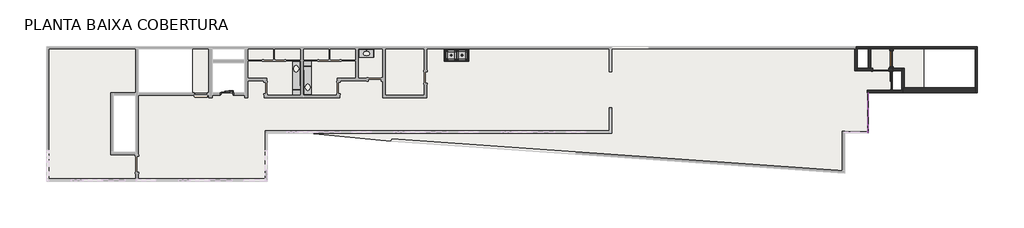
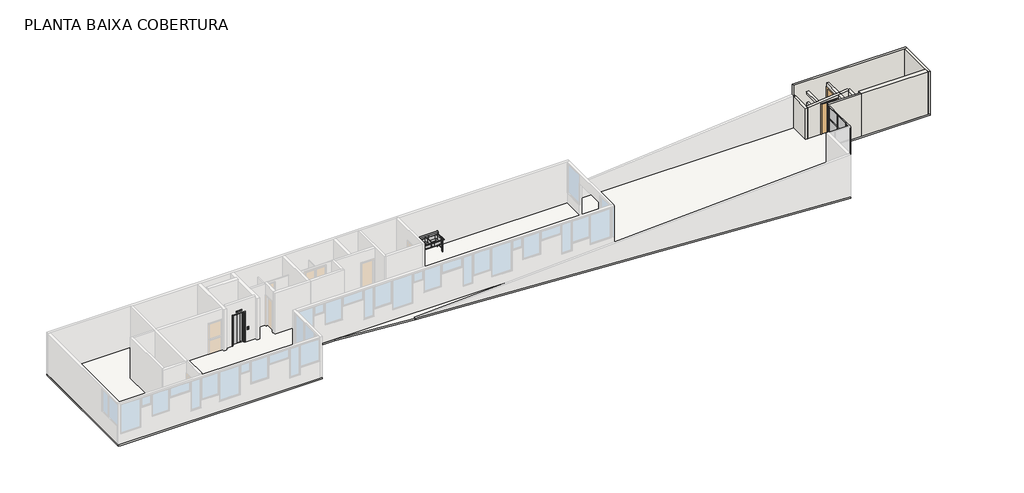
# One storey, part 3 of 3: 23 members, 12 furniture elements, 11 walls, 9 plates, 3 doors, 3 slabs, 1 flow terminal, 1 proxy.
"""IFC4 building model written with IfcOpenShell, lengths in millimetres."""

from ifc_helpers import new_model, si_unit, frame, origin, place, context, project, spatial, polyline, outline, extrude, faceted_brep, transform, mapped, element, save
from components import lift_side_door_aus_4_person_320kg_load_5218565f, door_1000_x_2100_mm_661a7a0d, door_1000_x_2100_mm_77822ca1, door_1200_x_2100mm_dfe7479b, flow_terminal_7016cc60, flow_terminal_fb18c262, furniture_ba68da85, furniture_0e66150f, furniture_6f2fc743, bancada_3f8d7115, bancada_f9a04eb4, rectangular_mullion_4x4_cm_offset_2cm_f367b127, rectangular_mullion_4x4_cm_offset_2cm_0519d578, rectangular_mullion_4x4_cm_offset_2cm_ddc5f716, rectangular_mullion_4x4_cm_offset_2cm_dcd03643, rectangular_mullion_4x4_cm_offset_2cm_bcd7c595, rectangular_mullion_4x4_cm_offset_2cm_f339643f, rectangular_mullion_4x4_cm_offset_2cm_86c1dae4, rectangular_mullion_4x4_cm_offset_2cm_9c1948b9, rectangular_mullion_4x4_cm_offset_2cm_c138487f, rectangular_mullion_4x4_cm_offset_2cm_ab246246, system_panel_vidro_2cm_7b007d6b, system_panel_vidro_2cm_9368d487, system_panel_vidro_2cm_80f5f5df, system_panel_vidro_2cm_2f9a8f67, system_panel_vidro_2cm_45a89a14, system_panel_vidro_2cm_91a6d141

model = new_model("IFC4")

# Units and contexts
model_context = context("Model", 3, world=origin())
ifc_project = project(units=[si_unit("LENGTHUNIT", "METRE", prefix="MILLI")], contexts=[model_context])

# Site, building, storey
site = spatial("IfcSite", under=ifc_project)
building = spatial("IfcBuilding", under=site)
storey = spatial("IfcBuildingStorey", under=building, Name="PLANTA BAIXA COBERTURA", Elevation=7200.0)

# Proxy
placement = place(None, origin())
lift_side_door_aus_4_person_320kg_load_shape = lift_side_door_aus_4_person_320kg_load_5218565f(model_context)
element("IfcBuildingElementProxy", 1, Name="Lift - Side Door (AUS) : 4 Person 320kg load", ObjectType="Lift - Side Door (AUS) : 4 Person 320kg load", at=placement, inside=storey, context=model_context, shape_type="MappedRepresentation", body=[
    mapped(lift_side_door_aus_4_person_320kg_load_shape, transform((-3150.7183499, -5666.1116245, 7200.0), x_axis=(-1.0, 0.0, 0.0), y_axis=(0.0, -1.0, 0.0), z_axis=(0.0, 0.0, 1.0))),
])

# Doors
door_1000_x_2100_mm_shape = door_1000_x_2100_mm_661a7a0d(model_context)
element("IfcDoor", 2, ObjectType="M_Folha única : 1000 x 2100 mm", at=placement, inside=storey, context=model_context, shape_type="MappedRepresentation", body=[
    mapped(door_1000_x_2100_mm_shape, transform((36795.3673655, -4166.1116245, 7200.0), x_axis=(1.0, 0.0, 0.0), y_axis=(0.0, 1.0, 0.0), z_axis=(0.0, 0.0, 1.0))),
])
door_1000_x_2100_mm_2_shape = door_1000_x_2100_mm_77822ca1(model_context)
element("IfcDoor", 3, ObjectType="M_Folha única : 1000 x 2100 mm", at=placement, inside=storey, context=model_context, shape_type="MappedRepresentation", body=[
    mapped(door_1000_x_2100_mm_2_shape, transform((37470.3673655, -3491.1116245, 7200.0), x_axis=(0.0, 1.0, 0.0), y_axis=(-1.0, 0.0, 0.0), z_axis=(0.0, 0.0, 1.0))),
])
door_1200_x_2100mm_shape = door_1200_x_2100mm_dfe7479b(model_context)
element("IfcDoor", 4, ObjectType="Porta veneziana de correr dupla sem revestimento : 1200 x 2100mm", at=placement, inside=storey, context=model_context, shape_type="MappedRepresentation", body=[
    mapped(door_1200_x_2100mm_shape, transform((37470.3673655, -4846.4505378, 7200.0), x_axis=(0.0, -1.0, 0.0), y_axis=(1.0, 0.0, 0.0), z_axis=(0.0, 0.0, 1.0))),
])

# Flow terminal
flow_terminal_shape = flow_terminal_7016cc60(model_context)
flow_terminal_2_shape = flow_terminal_fb18c262(model_context)
element("IfcFlowTerminal", 5, ObjectType="Sink_Double _Compartment_Floor_Mount-Elkay-RNSF82482_LR2 : RNSF82482 (Rigidbilt® Stainless Steel Floor Mount Double Compartment Scullery Sink )", at=placement, inside=storey, context=model_context, shape_type="MappedRepresentation", body=[
    mapped(flow_terminal_shape, transform((10690.3673655, -3271.1116245, 7200.0), x_axis=(1.0, 0.0, 0.0), y_axis=(0.0, 1.0, 0.0), z_axis=(0.0, 0.0, 1.0))),
    mapped(flow_terminal_2_shape, transform((10690.3673655, -3271.1116245, 7200.0), x_axis=(1.0, 0.0, 0.0), y_axis=(0.0, 1.0, 0.0), z_axis=(0.0, 0.0, 1.0))),
])

# Furniture
furniture_shape = furniture_ba68da85(model_context)
element("IfcFurniture", 6, ObjectType="Frontispício : Frontispício", at=placement, inside=storey, context=model_context, shape_type="MappedRepresentation", body=[
    mapped(furniture_shape, transform((901.6897466, -3616.1116245, 8200.0), x_axis=(1.0000000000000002, 0.0, 0.0), y_axis=(0.0, 1.0000000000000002, 0.0), z_axis=(0.0, 0.0, 1.0))),
])
element("IfcFurniture", 7, ObjectType="Frontispício : Frontispício", at=placement, inside=storey, context=model_context, shape_type="MappedRepresentation", body=[
    mapped(furniture_shape, transform((901.6897466, -5396.1116245, 8200.0), x_axis=(1.0, 0.0, 0.0), y_axis=(0.0, 1.0, 0.0), z_axis=(0.0, 0.0, 1.0))),
])
element("IfcFurniture", 8, ObjectType="Frontispício : Frontispício", at=placement, inside=storey, context=model_context, shape_type="MappedRepresentation", body=[
    mapped(furniture_shape, transform((1439.0449845, -5741.1116245, 8200.0), x_axis=(-1.0000000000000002, 0.0, 0.0), y_axis=(0.0, -1.0000000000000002, 0.0), z_axis=(0.0, 0.0, 1.0))),
])
element("IfcFurniture", 9, ObjectType="Frontispício : Frontispício", at=placement, inside=storey, context=model_context, shape_type="MappedRepresentation", body=[
    mapped(furniture_shape, transform((1439.0449845, -3961.1116245, 8200.0), x_axis=(-1.0, 0.0, 0.0), y_axis=(0.0, -1.0, 0.0), z_axis=(0.0, 0.0, 1.0))),
])
element("IfcFurniture", 10, ObjectType="Frontispício : Frontispício", at=placement, inside=storey, context=model_context, shape_type="MappedRepresentation", body=[
    mapped(furniture_shape, transform((4645.3673655, -3084.7892435, 8200.0), x_axis=(0.0, 1.0000000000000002, 0.0), y_axis=(-1.0000000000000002, 0.0, 0.0), z_axis=(0.0, 0.0, 1.0))),
])
element("IfcFurniture", 11, ObjectType="Frontispício : Frontispício", at=placement, inside=storey, context=model_context, shape_type="MappedRepresentation", body=[
    mapped(furniture_shape, transform((5575.3673655, -3084.7892435, 8200.0), x_axis=(0.0, 1.0, 0.0), y_axis=(-1.0, 0.0, 0.0), z_axis=(0.0, 0.0, 1.0))),
])
furniture_2_shape = furniture_0e66150f(model_context)
element("IfcFurniture", 12, ObjectType="Frontispício : Frontispício", at=placement, inside=storey, context=model_context, shape_type="MappedRepresentation", body=[
    mapped(furniture_2_shape, transform((5421.6897466, -2891.1116245, 8200.0), x_axis=(1.0, 0.0, 0.0), y_axis=(0.0, 1.0, 0.0), z_axis=(0.0, 0.0, 1.0))),
])
furniture_3_shape = furniture_6f2fc743(model_context)
element("IfcFurniture", 13, ObjectType="Frontispício : Frontispício", at=placement, inside=storey, context=model_context, shape_type="MappedRepresentation", body=[
    mapped(furniture_3_shape, transform((1095.3673655, -4992.4340055, 8200.0), x_axis=(0.0, -1.0, 0.0), y_axis=(1.0, 0.0, 0.0), z_axis=(0.0, 0.0, 1.0))),
])
element("IfcFurniture", 14, ObjectType="Frontispício : Frontispício", at=placement, inside=storey, context=model_context, shape_type="MappedRepresentation", body=[
    mapped(furniture_3_shape, transform((1245.3673655, -4364.7892435, 8200.0), x_axis=(0.0, 1.0, 0.0), y_axis=(-1.0, 0.0, 0.0), z_axis=(0.0, 0.0, 1.0))),
])
bancada_shape = bancada_3f8d7115(model_context)
element("IfcFurniture", 15, ObjectType="Bancada Retangular para lavatório Cuba Oval com Torneira Chanfro : Bancada", at=placement, inside=storey, context=model_context, shape_type="MappedRepresentation", body=[
    mapped(bancada_shape, transform((5220.6670391, -2891.1116245, 7200.0), x_axis=(1.0, 0.0, 0.0), y_axis=(0.0, 1.0, 0.0), z_axis=(0.0, 0.0, 1.0))),
])
bancada_2_shape = bancada_f9a04eb4(model_context)
element("IfcFurniture", 16, ObjectType="Bancada lavatorio duplo : Bancada", at=placement, inside=storey, context=model_context, shape_type="MappedRepresentation", body=[
    mapped(bancada_2_shape, transform((1095.3673655, -4191.4112981, 7200.0), x_axis=(0.0, -1.0, 0.0), y_axis=(1.0, 0.0, 0.0), z_axis=(0.0, 0.0, 1.0))),
])
element("IfcFurniture", 17, ObjectType="Bancada lavatorio duplo : Bancada", at=placement, inside=storey, context=model_context, shape_type="MappedRepresentation", body=[
    mapped(bancada_2_shape, transform((1245.3673655, -5165.8119509, 7200.0), x_axis=(0.0, 1.0, 0.0), y_axis=(-1.0, 0.0, 0.0), z_axis=(0.0, 0.0, 1.0))),
])

# Members
rectangular_mullion_4x4_cm_offset_2cm_shape = rectangular_mullion_4x4_cm_offset_2cm_f367b127(model_context)
element("IfcMember", 18, ObjectType="Rectangular Mullion : 4x4 cm - offset 2cm", at=placement, inside=storey, context=model_context, shape_type="MappedRepresentation", body=[
    mapped(rectangular_mullion_4x4_cm_offset_2cm_shape, transform((36035.3673655, -6551.1116248, 7240.0), x_axis=(0.0, -1.0, 0.0), y_axis=(-1.0, 0.0, 0.0), z_axis=(0.0, 0.0, -1.0))),
])
element("IfcMember", 19, ObjectType="Rectangular Mullion : 4x4 cm - offset 2cm", at=placement, inside=storey, context=model_context, shape_type="MappedRepresentation", body=[
    mapped(rectangular_mullion_4x4_cm_offset_2cm_shape, transform((36035.3673655, -7551.1116248, 7240.0), x_axis=(0.0, -1.0, 0.0), y_axis=(-1.0, 0.0, 0.0), z_axis=(0.0, 0.0, -1.0))),
])
element("IfcMember", 20, ObjectType="Rectangular Mullion : 4x4 cm - offset 2cm", at=placement, inside=storey, context=model_context, shape_type="MappedRepresentation", body=[
    mapped(rectangular_mullion_4x4_cm_offset_2cm_shape, transform((36035.3673655, -6551.1116248, 8240.0), x_axis=(0.0, -1.0, 0.0), y_axis=(-1.0, 0.0, 0.0), z_axis=(0.0, 0.0, -1.0))),
])
element("IfcMember", 21, ObjectType="Rectangular Mullion : 4x4 cm - offset 2cm", at=placement, inside=storey, context=model_context, shape_type="MappedRepresentation", body=[
    mapped(rectangular_mullion_4x4_cm_offset_2cm_shape, transform((36035.3673655, -7551.1116248, 8240.0), x_axis=(0.0, -1.0, 0.0), y_axis=(-1.0, 0.0, 0.0), z_axis=(0.0, 0.0, -1.0))),
])
rectangular_mullion_4x4_cm_offset_2cm_2_shape = rectangular_mullion_4x4_cm_offset_2cm_0519d578(model_context)
element("IfcMember", 22, ObjectType="Rectangular Mullion : 4x4 cm - offset 2cm", at=placement, inside=storey, context=model_context, shape_type="MappedRepresentation", body=[
    mapped(rectangular_mullion_4x4_cm_offset_2cm_2_shape, transform((36035.3673655, -8041.1116245, 7240.0), x_axis=(0.0, -1.0, 0.0), y_axis=(-1.0, 0.0, 0.0), z_axis=(0.0, 0.0, -1.0))),
])
element("IfcMember", 23, ObjectType="Rectangular Mullion : 4x4 cm - offset 2cm", at=placement, inside=storey, context=model_context, shape_type="MappedRepresentation", body=[
    mapped(rectangular_mullion_4x4_cm_offset_2cm_2_shape, transform((36035.3673655, -5591.1116245, 8200.0), x_axis=(0.0, 1.0, 0.0), y_axis=(-1.0, 0.0, 0.0), z_axis=(0.0, 0.0, 1.0))),
])
rectangular_mullion_4x4_cm_offset_2cm_3_shape = rectangular_mullion_4x4_cm_offset_2cm_ddc5f716(model_context)
element("IfcMember", 24, ObjectType="Rectangular Mullion : 4x4 cm - offset 2cm", at=placement, inside=storey, context=model_context, shape_type="MappedRepresentation", body=[
    mapped(rectangular_mullion_4x4_cm_offset_2cm_3_shape, transform((36035.3673655, -6551.1116248, 7200.0), x_axis=(0.0, 0.0, -1.0), y_axis=(-1.0, 0.0, 0.0), z_axis=(0.0, 1.0, 0.0))),
])
rectangular_mullion_4x4_cm_offset_2cm_4_shape = rectangular_mullion_4x4_cm_offset_2cm_dcd03643(model_context)
element("IfcMember", 25, ObjectType="Rectangular Mullion : 4x4 cm - offset 2cm", at=placement, inside=storey, context=model_context, shape_type="MappedRepresentation", body=[
    mapped(rectangular_mullion_4x4_cm_offset_2cm_4_shape, transform((36035.3673655, -7551.1116248, 8200.0), x_axis=(0.0, 0.0, 1.0), y_axis=(-1.0, 0.0, 0.0), z_axis=(0.0, -1.0, 0.0))),
])
element("IfcMember", 26, ObjectType="Rectangular Mullion : 4x4 cm - offset 2cm", at=placement, inside=storey, context=model_context, shape_type="MappedRepresentation", body=[
    mapped(rectangular_mullion_4x4_cm_offset_2cm_4_shape, transform((36035.3673655, -7551.1116248, 9200.0), x_axis=(0.0, 0.0, 1.0), y_axis=(-1.0, 0.0, 0.0), z_axis=(0.0, -1.0, 0.0))),
])
element("IfcMember", 27, ObjectType="Rectangular Mullion : 4x4 cm - offset 2cm", at=placement, inside=storey, context=model_context, shape_type="MappedRepresentation", body=[
    mapped(rectangular_mullion_4x4_cm_offset_2cm_3_shape, transform((36035.3673655, -7551.1116248, 10100.0), x_axis=(0.0, 0.0, 1.0), y_axis=(-1.0, 0.0, 0.0), z_axis=(0.0, -1.0, 0.0))),
])
element("IfcMember", 28, ObjectType="Rectangular Mullion : 4x4 cm - offset 2cm", at=placement, inside=storey, context=model_context, shape_type="MappedRepresentation", body=[
    mapped(rectangular_mullion_4x4_cm_offset_2cm_3_shape, transform((36035.3673655, -8041.1116245, 8200.0), x_axis=(0.0, -1.0, 0.0), y_axis=(-1.0, 0.0, 0.0), z_axis=(0.0, 0.0, -1.0))),
])
element("IfcMember", 29, ObjectType="Rectangular Mullion : 4x4 cm - offset 2cm", at=placement, inside=storey, context=model_context, shape_type="MappedRepresentation", body=[
    mapped(rectangular_mullion_4x4_cm_offset_2cm_3_shape, transform((36035.3673655, -5591.1116245, 9200.0), x_axis=(0.0, 1.0, 0.0), y_axis=(-1.0, 0.0, 0.0), z_axis=(0.0, 0.0, 1.0))),
])
rectangular_mullion_4x4_cm_offset_2cm_5_shape = rectangular_mullion_4x4_cm_offset_2cm_bcd7c595(model_context)
element("IfcMember", 30, ObjectType="Rectangular Mullion : 4x4 cm - offset 2cm", at=placement, inside=storey, context=model_context, shape_type="MappedRepresentation", body=[
    mapped(rectangular_mullion_4x4_cm_offset_2cm_5_shape, transform((36035.3673655, -5591.1116245, 7200.0), x_axis=(0.0, 0.0, -1.0), y_axis=(-1.0, 0.0, 0.0), z_axis=(0.0, 1.0, 0.0))),
])
element("IfcMember", 31, ObjectType="Rectangular Mullion : 4x4 cm - offset 2cm", at=placement, inside=storey, context=model_context, shape_type="MappedRepresentation", body=[
    mapped(rectangular_mullion_4x4_cm_offset_2cm_5_shape, transform((36035.3673655, -6551.1116248, 10100.0), x_axis=(0.0, 0.0, 1.0), y_axis=(-1.0, 0.0, 0.0), z_axis=(0.0, -1.0, 0.0))),
])
rectangular_mullion_4x4_cm_offset_2cm_6_shape = rectangular_mullion_4x4_cm_offset_2cm_f339643f(model_context)
element("IfcMember", 32, ObjectType="Rectangular Mullion : 4x4 cm - offset 2cm", at=placement, inside=storey, context=model_context, shape_type="MappedRepresentation", body=[
    mapped(rectangular_mullion_4x4_cm_offset_2cm_6_shape, transform((36035.3673655, -6551.1116248, 8200.0), x_axis=(0.0, 0.0, 1.0), y_axis=(-1.0, 0.0, 0.0), z_axis=(0.0, -1.0, 0.0))),
])
element("IfcMember", 33, ObjectType="Rectangular Mullion : 4x4 cm - offset 2cm", at=placement, inside=storey, context=model_context, shape_type="MappedRepresentation", body=[
    mapped(rectangular_mullion_4x4_cm_offset_2cm_6_shape, transform((36035.3673655, -6551.1116248, 9200.0), x_axis=(0.0, 0.0, 1.0), y_axis=(-1.0, 0.0, 0.0), z_axis=(0.0, -1.0, 0.0))),
])
rectangular_mullion_4x4_cm_offset_2cm_7_shape = rectangular_mullion_4x4_cm_offset_2cm_86c1dae4(model_context)
element("IfcMember", 34, ObjectType="Rectangular Mullion : 4x4 cm - offset 2cm", at=placement, inside=storey, context=model_context, shape_type="MappedRepresentation", body=[
    mapped(rectangular_mullion_4x4_cm_offset_2cm_7_shape, transform((36035.3673655, -8001.1116245, 8200.0), x_axis=(0.0, 0.0, 1.0), y_axis=(-1.0, 0.0, 0.0), z_axis=(0.0, -1.0, 0.0))),
])
element("IfcMember", 35, ObjectType="Rectangular Mullion : 4x4 cm - offset 2cm", at=placement, inside=storey, context=model_context, shape_type="MappedRepresentation", body=[
    mapped(rectangular_mullion_4x4_cm_offset_2cm_7_shape, transform((36035.3673655, -8001.1116245, 9200.0), x_axis=(0.0, 0.0, 1.0), y_axis=(-1.0, 0.0, 0.0), z_axis=(0.0, -1.0, 0.0))),
])
rectangular_mullion_4x4_cm_offset_2cm_8_shape = rectangular_mullion_4x4_cm_offset_2cm_9c1948b9(model_context)
element("IfcMember", 36, ObjectType="Rectangular Mullion : 4x4 cm - offset 2cm", at=placement, inside=storey, context=model_context, shape_type="MappedRepresentation", body=[
    mapped(rectangular_mullion_4x4_cm_offset_2cm_8_shape, transform((36035.3673655, -6551.1116248, 9240.0), x_axis=(0.0, -1.0, 0.0), y_axis=(-1.0, 0.0, 0.0), z_axis=(0.0, 0.0, -1.0))),
])
element("IfcMember", 37, ObjectType="Rectangular Mullion : 4x4 cm - offset 2cm", at=placement, inside=storey, context=model_context, shape_type="MappedRepresentation", body=[
    mapped(rectangular_mullion_4x4_cm_offset_2cm_8_shape, transform((36035.3673655, -7551.1116248, 9240.0), x_axis=(0.0, -1.0, 0.0), y_axis=(-1.0, 0.0, 0.0), z_axis=(0.0, 0.0, -1.0))),
])
rectangular_mullion_4x4_cm_offset_2cm_9_shape = rectangular_mullion_4x4_cm_offset_2cm_c138487f(model_context)
element("IfcMember", 38, ObjectType="Rectangular Mullion : 4x4 cm - offset 2cm", at=placement, inside=storey, context=model_context, shape_type="MappedRepresentation", body=[
    mapped(rectangular_mullion_4x4_cm_offset_2cm_9_shape, transform((36035.3673655, -5591.1116245, 10060.0), x_axis=(0.0, 1.0, 0.0), y_axis=(-1.0, 0.0, 0.0), z_axis=(0.0, 0.0, 1.0))),
])
element("IfcMember", 39, ObjectType="Rectangular Mullion : 4x4 cm - offset 2cm", at=placement, inside=storey, context=model_context, shape_type="MappedRepresentation", body=[
    mapped(rectangular_mullion_4x4_cm_offset_2cm_9_shape, transform((36035.3673655, -8041.1116245, 9200.0), x_axis=(0.0, -1.0, 0.0), y_axis=(-1.0, 0.0, 0.0), z_axis=(0.0, 0.0, -1.0))),
])
rectangular_mullion_4x4_cm_offset_2cm_10_shape = rectangular_mullion_4x4_cm_offset_2cm_ab246246(model_context)
element("IfcMember", 40, ObjectType="Rectangular Mullion : 4x4 cm - offset 2cm", at=placement, inside=storey, context=model_context, shape_type="MappedRepresentation", body=[
    mapped(rectangular_mullion_4x4_cm_offset_2cm_10_shape, transform((36035.3673655, -7551.1116248, 7200.0), x_axis=(0.0, 0.0, -1.0), y_axis=(-1.0, 0.0, 0.0), z_axis=(0.0, 1.0, 0.0))),
])

# Plates
system_panel_vidro_2cm_shape = system_panel_vidro_2cm_7b007d6b(model_context)
element("IfcPlate", 41, ObjectType="System Panel : Vidro 2cm", at=placement, inside=storey, context=model_context, shape_type="MappedRepresentation", body=[
    mapped(system_panel_vidro_2cm_shape, transform((36035.3673655, -7071.1116248, 7240.0), x_axis=(0.0, -1.0, 0.0), y_axis=(1.0, 0.0, 0.0), z_axis=(0.0, 0.0, 1.0))),
])
element("IfcPlate", 42, ObjectType="System Panel : Vidro 2cm", at=placement, inside=storey, context=model_context, shape_type="MappedRepresentation", body=[
    mapped(system_panel_vidro_2cm_shape, transform((36035.3673655, -7071.1116248, 8240.0), x_axis=(0.0, -1.0, 0.0), y_axis=(1.0, 0.0, 0.0), z_axis=(0.0, 0.0, 1.0))),
])
system_panel_vidro_2cm_2_shape = system_panel_vidro_2cm_9368d487(model_context)
element("IfcPlate", 43, ObjectType="System Panel : Vidro 2cm", at=placement, inside=storey, context=model_context, shape_type="MappedRepresentation", body=[
    mapped(system_panel_vidro_2cm_2_shape, transform((36035.3673655, -6091.1116247, 7240.0), x_axis=(0.0, -1.0, 0.0), y_axis=(1.0, 0.0, 0.0), z_axis=(0.0, 0.0, 1.0))),
])
element("IfcPlate", 44, ObjectType="System Panel : Vidro 2cm", at=placement, inside=storey, context=model_context, shape_type="MappedRepresentation", body=[
    mapped(system_panel_vidro_2cm_2_shape, transform((36035.3673655, -6091.1116247, 8240.0), x_axis=(0.0, -1.0, 0.0), y_axis=(1.0, 0.0, 0.0), z_axis=(0.0, 0.0, 1.0))),
])
system_panel_vidro_2cm_3_shape = system_panel_vidro_2cm_80f5f5df(model_context)
element("IfcPlate", 45, ObjectType="System Panel : Vidro 2cm", at=placement, inside=storey, context=model_context, shape_type="MappedRepresentation", body=[
    mapped(system_panel_vidro_2cm_3_shape, transform((36035.3673655, -7796.1116247, 7240.0), x_axis=(0.0, -1.0, 0.0), y_axis=(1.0, 0.0, 0.0), z_axis=(0.0, 0.0, 1.0))),
])
element("IfcPlate", 46, ObjectType="System Panel : Vidro 2cm", at=placement, inside=storey, context=model_context, shape_type="MappedRepresentation", body=[
    mapped(system_panel_vidro_2cm_3_shape, transform((36035.3673655, -7796.1116247, 8240.0), x_axis=(0.0, -1.0, 0.0), y_axis=(1.0, 0.0, 0.0), z_axis=(0.0, 0.0, 1.0))),
])
system_panel_vidro_2cm_4_shape = system_panel_vidro_2cm_2f9a8f67(model_context)
element("IfcPlate", 47, ObjectType="System Panel : Vidro 2cm", at=placement, inside=storey, context=model_context, shape_type="MappedRepresentation", body=[
    mapped(system_panel_vidro_2cm_4_shape, transform((36035.3673655, -7071.1116248, 9240.0), x_axis=(0.0, -1.0, 0.0), y_axis=(1.0, 0.0, 0.0), z_axis=(0.0, 0.0, 1.0))),
])
system_panel_vidro_2cm_5_shape = system_panel_vidro_2cm_45a89a14(model_context)
element("IfcPlate", 48, ObjectType="System Panel : Vidro 2cm", at=placement, inside=storey, context=model_context, shape_type="MappedRepresentation", body=[
    mapped(system_panel_vidro_2cm_5_shape, transform((36035.3673655, -6091.1116247, 9240.0), x_axis=(0.0, -1.0, 0.0), y_axis=(1.0, 0.0, 0.0), z_axis=(0.0, 0.0, 1.0))),
])
system_panel_vidro_2cm_6_shape = system_panel_vidro_2cm_91a6d141(model_context)
element("IfcPlate", 49, ObjectType="System Panel : Vidro 2cm", at=placement, inside=storey, context=model_context, shape_type="MappedRepresentation", body=[
    mapped(system_panel_vidro_2cm_6_shape, transform((36035.3673655, -7796.1116247, 9240.0), x_axis=(0.0, -1.0, 0.0), y_axis=(1.0, 0.0, 0.0), z_axis=(0.0, 0.0, 1.0))),
])

# Slabs
element("IfcSlab", 50, ObjectType="Genérico 100 mm", at=placement, inside=storey, context=model_context, shape_type="Brep", body=[
    faceted_brep([(-14554.6326345, -11041.1116245, 7100.0), (-14554.6326345, -2891.1116245, 7100.0), (-14554.6326345, -2741.1116245, 7100.0), (42755.3673655, -2741.1116245, 7100.0), (42755.3673655, -2891.1116245, 7100.0), (42755.3673655, -5591.1116245, 7100.0), (42605.3673655, -5591.1116245, 7100.0), (36035.3673655, -5591.1116245, 7100.0), (36035.3673655, -8041.1116245, 7100.0), (34595.3673655, -8041.1116245, 7100.0), (34595.3673655, -10551.7048448, 7100.0), (6664.9307547, -8579.2163836, 7100.0), (1599.457388, -8071.1116245, 7100.0), (-954.6326345, -8071.1116245, 7100.0), (-954.6326345, -11041.1116245, 7100.0), (-14404.6326345, -11041.1116245, 7100.0), (36045.3673655, -2891.1116245, 7100.0), (35345.3673655, -2891.1116245, 7100.0), (35345.3673655, -4091.1116245, 7100.0), (36045.3673655, -4091.1116245, 7100.0), (38085.3673655, -4241.1116245, 7100.0), (37545.3673655, -4241.1116245, 7100.0), (37545.3673655, -5441.1116245, 7100.0), (38085.3673655, -5441.1116245, 7100.0), (-2354.6326345, -2891.1116245, 7100.0), (-4354.6326345, -2891.1116245, 7100.0), (-4354.6326345, -3541.1116245, 7100.0), (-2354.6326345, -3541.1116245, 7100.0), (-9054.6326345, -5741.1116245, 7100.0), (-10454.6326345, -5741.1116245, 7100.0), (-10454.6326345, -9241.1116245, 7100.0), (-9054.6326345, -9241.1116245, 7100.0), (-4554.6326345, -2891.1116245, 7100.0), (-8904.6326345, -2891.1116245, 7100.0), (-8904.6326345, -5591.1116245, 7100.0), (-4554.6326345, -5591.1116245, 7100.0), (37545.3673655, -2891.1116245, 7100.0), (37545.3673655, -4091.1116245, 7100.0), (38235.3673655, -4091.1116245, 7100.0), (38235.3673655, -5291.1116245, 7100.0), (39445.3673655, -5291.1116245, 7100.0), (42605.3673655, -5291.1116245, 7100.0), (42605.3673655, -2891.1116245, 7100.0), (39445.3673655, -2891.1116245, 7100.0), (-4354.6326345, -3741.1116245, 7100.0), (-4354.6326345, -5591.1116245, 7100.0), (-2354.6326345, -5591.1116245, 7100.0), (-2354.6326345, -3741.1116245, 7100.0), (-14554.6326345, -2741.1116245, 7200.0), (-14554.6326345, -2891.1116245, 7200.0), (-14554.6326345, -10891.1116245, 7200.0), (-14554.6326345, -11041.1116245, 7200.0), (-954.6326345, -11041.1116245, 7200.0), (-954.6326345, -8071.1116245, 7200.0), (1599.457388, -8071.1116245, 7200.0), (6664.9307547, -8579.2163836, 7200.0), (34595.3673655, -10551.7048448, 7200.0), (34595.3673655, -8041.1116245, 7200.0), (36035.3673655, -8041.1116245, 7200.0), (36035.3673655, -5591.1116245, 7200.0), (42605.3673655, -5591.1116245, 7200.0), (42755.3673655, -5591.1116245, 7200.0), (42755.3673655, -2891.1116245, 7200.0), (42755.3673655, -2741.1116245, 7200.0), (35345.3673655, -2891.1116245, 7200.0), (36045.3673655, -2891.1116245, 7200.0), (36045.3673655, -4091.1116245, 7200.0), (35345.3673655, -4091.1116245, 7200.0), (37545.3673655, -4241.1116245, 7200.0), (38085.3673655, -4241.1116245, 7200.0), (38085.3673655, -5441.1116245, 7200.0), (37545.3673655, -5441.1116245, 7200.0), (-4354.6326345, -2891.1116245, 7200.0), (-2354.6326345, -2891.1116245, 7200.0), (-2354.6326345, -3541.1116245, 7200.0), (-4354.6326345, -3541.1116245, 7200.0), (-10454.6326345, -5741.1116245, 7200.0), (-9054.6326345, -5741.1116245, 7200.0), (-9054.6326345, -9241.1116245, 7200.0), (-10454.6326345, -9241.1116245, 7200.0), (-8904.6326345, -2891.1116245, 7200.0), (-4554.6326345, -2891.1116245, 7200.0), (-4554.6326345, -5591.1116245, 7200.0), (-8904.6326345, -5591.1116245, 7200.0), (37545.3673655, -4091.1116245, 7200.0), (37545.3673655, -3991.1116245, 7200.0), (37545.3673655, -2991.1116245, 7200.0), (37545.3673655, -2891.1116245, 7200.0), (39445.3673655, -2891.1116245, 7200.0), (42605.3673655, -2891.1116245, 7200.0), (42605.3673655, -5291.1116245, 7200.0), (39445.3673655, -5291.1116245, 7200.0), (38235.3673655, -5291.1116245, 7200.0), (38235.3673655, -4091.1116245, 7200.0), (-4354.6326345, -5591.1116245, 7200.0), (-4354.6326345, -3741.1116245, 7200.0), (-2354.6326345, -3741.1116245, 7200.0), (-2354.6326345, -5591.1116245, 7200.0)], [[[0, 1, 2, 3, 4, 5, 6, 7, 8, 9, 10, 11, 12, 13, 14, 15], [16, 17, 18, 19], [20, 21, 22, 23], [24, 25, 26, 27], [28, 29, 30, 31], [32, 33, 34, 35], [36, 37, 38, 39, 40, 41, 42, 43], [44, 45, 46, 47]], [[48, 49, 50, 51, 52, 53, 54, 55, 56, 57, 58, 59, 60, 61, 62, 63], [64, 65, 66, 67], [68, 69, 70, 71], [72, 73, 74, 75], [76, 77, 78, 79], [80, 81, 82, 83], [84, 85, 86, 87, 88, 89, 90, 91, 92, 93], [94, 95, 96, 97]], [[2, 1, 0, 51, 50, 49, 48]], [[3, 2, 48, 63]], [[5, 4, 3, 63, 62, 61]], [[7, 6, 5, 61, 60, 59]], [[8, 7, 59, 58]], [[9, 8, 58, 57]], [[10, 9, 57, 56]], [[11, 10, 56, 55]], [[12, 11, 55, 54]], [[13, 12, 54, 53]], [[14, 13, 53, 52]], [[0, 15, 14, 52, 51]], [[87, 36, 43, 42, 89, 88]], [[37, 36, 87, 86, 85, 84]], [[38, 37, 84, 93]], [[39, 38, 93, 92]], [[39, 92, 91, 90, 41, 40]], [[42, 41, 90, 89]], [[17, 16, 65, 64]], [[18, 17, 64, 67]], [[19, 18, 67, 66]], [[16, 19, 66, 65]], [[21, 20, 69, 68]], [[22, 21, 68, 71]], [[23, 22, 71, 70]], [[20, 23, 70, 69]], [[45, 44, 95, 94]], [[46, 45, 94, 97]], [[47, 46, 97, 96]], [[44, 47, 96, 95]], [[25, 24, 73, 72]], [[26, 25, 72, 75]], [[27, 26, 75, 74]], [[24, 27, 74, 73]], [[29, 28, 77, 76]], [[30, 29, 76, 79]], [[31, 30, 79, 78]], [[28, 31, 78, 77]], [[33, 32, 81, 80]], [[34, 33, 80, 83]], [[35, 34, 83, 82]], [[32, 35, 82, 81]]]),
])
element("IfcSlab", 51, ObjectType="Genérico 100 mm", at=placement, inside=storey, context=model_context, shape_type="SweptSolid", body=[
    extrude(outline(polyline([(-4554.6326345, -2891.1116245), (-4554.6326345, -5591.1116245), (-5564.6326345, -5591.1116245), (-5564.6326345, -4241.1116245), (-5564.6326345, -2891.1116245), (-4554.6326345, -2891.1116245)])), frame((0.0, 0.0, 7100.0), z_axis=(0.0, 0.0, 1.0), x_axis=(1.0, 0.0, 0.0)), (0.0, 0.0, 1.0), 100.0),
])
element("IfcSlab", 52, ObjectType="Genérico 100 mm", at=placement, inside=storey, context=model_context, shape_type="SweptSolid", body=[
    extrude(outline(polyline([(39445.3673655, -2891.1116245), (39445.3673655, -5291.1116245), (38235.3673655, -5291.1116245), (38235.3673655, -4091.1116245), (37545.3673655, -4091.1116245), (37545.3673655, -2891.1116245), (39445.3673655, -2891.1116245)])), frame((0.0, 0.0, 7100.0), z_axis=(0.0, 0.0, 1.0), x_axis=(1.0, 0.0, 0.0)), (0.0, 0.0, 1.0), 100.0),
])

# Walls
element("IfcWall", 53, ObjectType="Genérica - 15cm", at=placement, inside=storey, context=model_context, shape_type="Brep", body=[
    faceted_brep([(42605.3673655, -2891.1116245, 7200.0), (42605.3673655, -5291.1116245, 7200.0), (42605.3673655, -5591.1116245, 7200.0), (42605.3673655, -5591.1116245, 10200.0), (42605.3673655, -5291.1116245, 10200.0), (42605.3673655, -2891.1116245, 10200.0), (42605.3673655, -2891.1116245, 10099.5374905), (42755.3673655, -2891.1116245, 7200.0), (42755.3673655, -2891.1116245, 10200.0), (42755.3673655, -5591.1116245, 10200.0), (42755.3673655, -5591.1116245, 7200.0)], [[[0, 1, 2, 3, 4, 5, 6]], [[7, 8, 9, 10]], [[2, 1, 0, 7, 10]], [[5, 4, 3, 9, 8]], [[0, 6, 5, 8, 7]], [[3, 2, 10, 9]]]),
])
element("IfcWall", 54, ObjectType="Genérica - 30cm", at=placement, inside=storey, context=model_context, shape_type="Brep", body=[
    faceted_brep([(42605.3673655, -5291.1116245, 7200.0), (38235.3673655, -5291.1116245, 7200.0), (38160.3673655, -5291.1116245, 7200.0), (38160.3673655, -5291.1116245, 9618.4311377), (38160.3673655, -5291.1116245, 10200.0), (42605.3673655, -5291.1116245, 10200.0), (42605.3673655, -5591.1116245, 7200.0), (42605.3673655, -5591.1116245, 10200.0), (38160.3673655, -5591.1116245, 10200.0), (38160.3673655, -5591.1116245, 7200.0), (38160.3673655, -5441.1116245, 7200.0), (38160.3673655, -5441.1116245, 10200.0)], [[[0, 1, 2, 3, 4, 5]], [[6, 7, 8, 9]], [[2, 1, 0, 6, 9, 10]], [[5, 4, 11, 8, 7]], [[0, 5, 7, 6]], [[2, 10, 9, 8, 11, 4, 3]]]),
])
element("IfcWall", 55, ObjectType="Genérica - 15cm", at=placement, inside=storey, context=model_context, shape_type="Brep", body=[
    faceted_brep([(35960.3673655, -5441.1116245, 7200.0), (35960.3673655, -5441.1116245, 10200.0), (38160.3673655, -5441.1116245, 10200.0), (38160.3673655, -5441.1116245, 9618.4311377), (38160.3673655, -5441.1116245, 7200.0), (38085.3673655, -5441.1116245, 7200.0), (37545.3673655, -5441.1116245, 7200.0), (37545.3673655, -5441.1116245, 9300.0), (37395.3673655, -5441.1116245, 9300.0), (37395.3673655, -5441.1116245, 7200.0), (35960.3673655, -5591.1116245, 7200.0), (38160.3673655, -5591.1116245, 7200.0), (38160.3673655, -5591.1116245, 10200.0), (35960.3673655, -5591.1116245, 10200.0), (37395.3673655, -5446.4505378, 7200.0), (37545.3673655, -5446.4505378, 7200.0), (37395.3673655, -5446.4505378, 9300.0), (37545.3673655, -5446.4505378, 9300.0)], [[[0, 1, 2, 3, 4, 5, 6, 7, 8, 9]], [[10, 11, 12, 13]], [[11, 10, 0, 9, 14, 15, 6, 5, 4]], [[1, 0, 10, 13]], [[2, 1, 13, 12]], [[2, 12, 11, 4, 3]], [[16, 14, 9, 8]], [[15, 17, 7, 6]], [[14, 16, 17, 15]], [[17, 16, 8, 7]]]),
])
element("IfcWall", 56, ObjectType="Genérica - 15cm", at=placement, inside=storey, context=model_context, shape_type="Brep", body=[
    faceted_brep([(35195.3673655, -2891.1116245, 9386.0356434), (35195.3673655, -2891.1116245, 7200.0), (35195.3673655, -4241.1116245, 7200.0), (35195.3673655, -4241.1116245, 9386.0356434), (35345.3673655, -2891.1116245, 7200.0), (35345.3673655, -2891.1116245, 9400.4790006), (35345.3673655, -4091.1116245, 9400.4790006), (35345.3673655, -4241.1116245, 9400.4790006), (35345.3673655, -4241.1116245, 7200.0), (35345.3673655, -4091.1116245, 7200.0), (35270.3673655, -2891.1116245, 7200.0)], [[[0, 1, 2, 3]], [[4, 5, 6, 7, 8, 9]], [[2, 1, 10, 4, 9, 8]], [[3, 2, 8, 7]], [[0, 5, 4, 10, 1]], [[0, 3, 7, 6, 5]]]),
])
element("IfcWall", 57, ObjectType="Genérica - 15cm", at=placement, inside=storey, context=model_context, shape_type="Brep", body=[
    faceted_brep([(37295.3673655, -4241.1116245, 9300.0), (37295.3673655, -4241.1116245, 7200.0), (37395.3673655, -4241.1116245, 7200.0), (37545.3673655, -4241.1116245, 7200.0), (37545.3673655, -4241.1116245, 9612.3149067), (37395.3673655, -4241.1116245, 9597.8715494), (35345.3673655, -4241.1116245, 9400.4790006), (35345.3673655, -4241.1116245, 7200.0), (36295.3673655, -4241.1116245, 7200.0), (36295.3673655, -4241.1116245, 9300.0), (37545.3673655, -4091.1116245, 7200.0), (37395.3673655, -4091.1116245, 7200.0), (37295.3673655, -4091.1116245, 7200.0), (37295.3673655, -4091.1116245, 9300.0), (36295.3673655, -4091.1116245, 9300.0), (36295.3673655, -4091.1116245, 7200.0), (36195.3673655, -4091.1116245, 7200.0), (36045.3673655, -4091.1116245, 7200.0), (35345.3673655, -4091.1116245, 7200.0), (35345.3673655, -4091.1116245, 9400.4790006), (36045.3673655, -4091.1116245, 9467.8813344), (36195.3673655, -4091.1116245, 9482.3246916), (37395.3673655, -4091.1116245, 9597.8715494), (37545.3673655, -4091.1116245, 9612.3149067)], [[[0, 1, 2, 3, 4, 5, 6, 7, 8, 9]], [[10, 11, 12, 13, 14, 15, 16, 17, 18, 19, 20, 21, 22, 23]], [[8, 7, 18, 17, 16, 15]], [[3, 2, 1, 12, 11, 10]], [[7, 6, 19, 18]], [[4, 3, 10, 23]], [[6, 5, 4, 23, 22, 21, 20, 19]], [[13, 12, 1, 0]], [[14, 13, 0, 9]], [[15, 14, 9, 8]]]),
])
element("IfcWall", 58, ObjectType="Genérica - 15cm", at=placement, inside=storey, context=model_context, shape_type="Brep", body=[
    faceted_brep([(37395.3673655, -4241.1116245, 9597.8715494), (37395.3673655, -4241.1116245, 7200.0), (37395.3673655, -4246.4505378, 7200.0), (37395.3673655, -4246.4505378, 9300.0), (37395.3673655, -5441.1116245, 9300.0), (37395.3673655, -5441.1116245, 9597.8715494), (37545.3673655, -4241.1116245, 7200.0), (37545.3673655, -4241.1116245, 9612.3149067), (37545.3673655, -5441.1116245, 9612.3149067), (37545.3673655, -5441.1116245, 9300.0), (37545.3673655, -4246.4505378, 9300.0), (37545.3673655, -4246.4505378, 7200.0)], [[[0, 1, 2, 3, 4, 5]], [[6, 7, 8, 9, 10, 11]], [[1, 6, 11, 2]], [[1, 0, 7, 6]], [[8, 5, 4, 9]], [[0, 5, 8, 7]], [[3, 10, 9, 4]], [[10, 3, 2, 11]]]),
])
element("IfcWall", 59, ObjectType="Genérica - 15cm", at=placement, inside=storey, context=model_context, shape_type="Brep", body=[
    faceted_brep([(38235.3673655, -5291.1116245, 7200.0), (38235.3673655, -4091.1116245, 7200.0), (38235.3673655, -4091.1116245, 9618.4311377), (38235.3673655, -5291.1116245, 9618.4311377), (38085.3673655, -5441.1116245, 7200.0), (38085.3673655, -5441.1116245, 9618.4311377), (38085.3673655, -4091.1116245, 9618.4311377), (38085.3673655, -4091.1116245, 7200.0), (38085.3673655, -4241.1116245, 7200.0), (38160.3673655, -5291.1116245, 7200.0), (38160.3673655, -5441.1116245, 7200.0), (38160.3673655, -5441.1116245, 9618.4311377), (38160.3673655, -5291.1116245, 9618.4311377)], [[[0, 1, 2, 3]], [[4, 5, 6, 7, 8]], [[1, 0, 9, 10, 4, 8, 7]], [[3, 2, 6, 5, 11, 12]], [[0, 3, 12, 9]], [[12, 11, 10, 9]], [[11, 5, 4, 10]], [[2, 1, 7, 6]]]),
])
element("IfcWall", 60, ObjectType="Genérica - 15cm", at=placement, inside=storey, context=model_context, shape_type="Brep", body=[
    faceted_brep([(38085.3673655, -4091.1116245, 7200.0), (37545.3673655, -4091.1116245, 7200.0), (37545.3673655, -4091.1116245, 9612.3149067), (38085.3673655, -4091.1116245, 9664.3109927), (38085.3673655, -4091.1116245, 9618.4311377), (38085.3673655, -4241.1116245, 7200.0), (38085.3673655, -4241.1116245, 9664.3109927), (37545.3673655, -4241.1116245, 9612.3149067), (37545.3673655, -4241.1116245, 7200.0)], [[[0, 1, 2, 3, 4]], [[5, 6, 7, 8]], [[1, 0, 5, 8]], [[0, 4, 3, 6, 5]], [[2, 1, 8, 7]], [[3, 2, 7, 6]]]),
])
element("IfcWall", 61, ObjectType="Genérica - 15cm", at=placement, inside=storey, context=model_context, shape_type="Brep", body=[
    faceted_brep([(37545.3673655, -2991.1116245, 9300.0), (37545.3673655, -2991.1116245, 7200.0), (37545.3673655, -2891.1116245, 7200.0), (37545.3673655, -2891.1116245, 9612.3149067), (37545.3673655, -4091.1116245, 9612.3149067), (37545.3673655, -4091.1116245, 7200.0), (37545.3673655, -3991.1116245, 7200.0), (37545.3673655, -3991.1116245, 9300.0), (37395.3673655, -2891.1116245, 7200.0), (37395.3673655, -2991.1116245, 7200.0), (37395.3673655, -2991.1116245, 9300.0), (37395.3673655, -3991.1116245, 9300.0), (37395.3673655, -3991.1116245, 7200.0), (37395.3673655, -4091.1116245, 7200.0), (37395.3673655, -4091.1116245, 9597.8715494), (37395.3673655, -2891.1116245, 9597.8715494)], [[[0, 1, 2, 3, 4, 5, 6, 7]], [[8, 9, 10, 11, 12, 13, 14, 15]], [[2, 1, 9, 8]], [[6, 5, 13, 12]], [[5, 4, 14, 13]], [[3, 2, 8, 15]], [[4, 3, 15, 14]], [[10, 9, 1, 0]], [[11, 10, 0, 7]], [[12, 11, 7, 6]]]),
])
element("IfcWall", 62, ObjectType="Genérica - 15cm", at=placement, inside=storey, context=model_context, shape_type="SweptSolid", body=[
    extrude(outline(polyline([(36195.3673655, -2891.1116245), (36195.3673655, -4091.1116245), (36045.3673655, -4091.1116245), (36045.3673655, -2891.1116245), (36195.3673655, -2891.1116245)])), frame((0.0, 0.0, 7200.0), z_axis=(0.0, 0.0, 1.0), x_axis=(1.0, 0.0, 0.0)), (0.0, 0.0, 1.0), 1500.0),
    extrude(outline(polyline([(9482.3246916, 36195.3673655), (9467.8813344, 36045.3673655), (9300.0, 36045.3673655), (9300.0, 36195.3673655), (9482.3246916, 36195.3673655)])), frame((0.0, -4091.1116245, 0.0), z_axis=(0.0, 1.0, 0.0), x_axis=(0.0, 0.0, 1.0)), (0.0, 0.0, 1.0), 1200.0),
])
element("IfcWall", 63, ObjectType="Genérica - 15cm", at=placement, inside=storey, context=model_context, shape_type="Brep", body=[
    faceted_brep([(35270.3673655, -2891.1116245, 7200.0), (35345.3673655, -2891.1116245, 7200.0), (36045.3673655, -2891.1116245, 7200.0), (36195.3673655, -2891.1116245, 7200.0), (37395.3673655, -2891.1116245, 7200.0), (37545.3673655, -2891.1116245, 7200.0), (42605.3673655, -2891.1116245, 7200.0), (42755.3673655, -2891.1116245, 7200.0), (42755.3673655, -2891.1116245, 10200.0), (42605.3673655, -2891.1116245, 10200.0), (35195.3673655, -2891.1116245, 10200.0), (35195.3673655, -2891.1116245, 9443.2275083), (35270.3673655, -2891.1116245, 9443.2275083), (35270.3673655, -2741.1116245, 7200.0), (35270.3673655, -2741.1116245, 9443.2275083), (35195.3673655, -2741.1116245, 9443.2275083), (35195.3673655, -2741.1116245, 10200.0), (42755.3673655, -2741.1116245, 10200.0), (42755.3673655, -2741.1116245, 7200.0)], [[[0, 1, 2, 3, 4, 5, 6, 7, 8, 9, 10, 11, 12]], [[13, 14, 15, 16, 17, 18]], [[7, 6, 5, 4, 3, 2, 1, 0, 13, 18]], [[10, 9, 8, 17, 16]], [[8, 7, 18, 17]], [[0, 12, 14, 13]], [[11, 15, 14, 12]], [[11, 10, 16, 15]]]),
])

save(model, "model.ifc")
